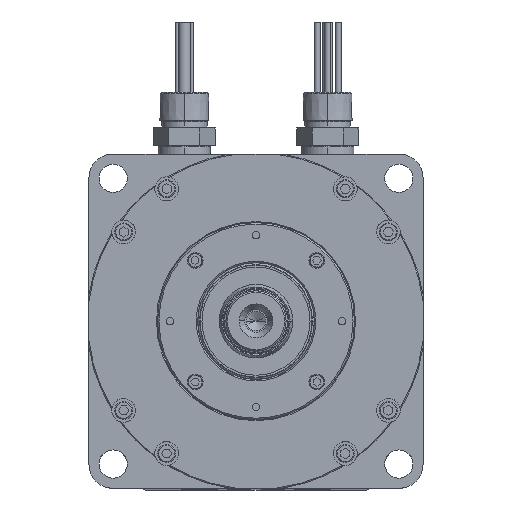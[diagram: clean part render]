
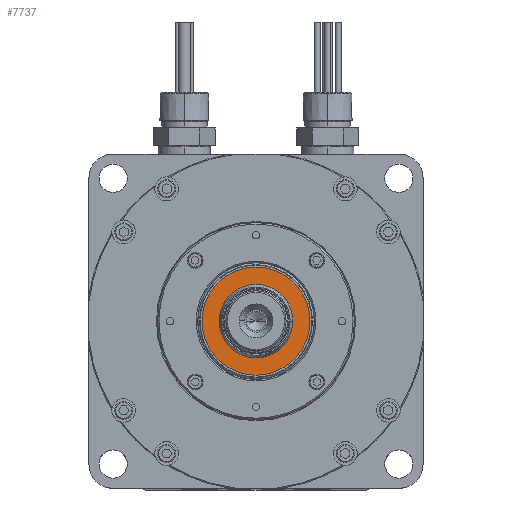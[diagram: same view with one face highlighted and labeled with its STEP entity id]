
A CAD part, top view. The second image highlights one B-rep face of the part: STEP entity #7737.
In plain terms, the highlighted planar face has unit normal (0, 0, 1).
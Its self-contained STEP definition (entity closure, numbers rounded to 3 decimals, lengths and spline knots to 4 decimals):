
#764 = CIRCLE ( 'NONE', #107404, 0.77 ) ;
#2259 = AXIS2_PLACEMENT_3D ( 'NONE', #98448, #48071, #106908 ) ;
#2685 = CARTESIAN_POINT ( 'NONE',  ( -1.1825, 0., -2.3642 ) ) ;
#4244 = ORIENTED_EDGE ( 'NONE', *, *, #101381, .F. ) ;
#5572 = CARTESIAN_POINT ( 'NONE',  ( -0.77, 0., -2.3642 ) ) ;
#7053 = DIRECTION ( 'NONE',  ( -1., 0., 0. ) ) ;
#7737 = ADVANCED_FACE ( 'NONE', ( #77172, #96961 ), #107974, .T. ) ;
#14544 = EDGE_CURVE ( 'NONE', #61845, #75412, #64677, .T. ) ;
#14904 = DIRECTION ( 'NONE',  ( -1., 0., 0. ) ) ;
#15060 = EDGE_LOOP ( 'NONE', ( #4244, #87140 ) ) ;
#19842 = DIRECTION ( 'NONE',  ( 0., 0., -1. ) ) ;
#20560 = AXIS2_PLACEMENT_3D ( 'NONE', #107953, #57559, #7053 ) ;
#23305 = DIRECTION ( 'NONE',  ( 0., 0., 1. ) ) ;
#29756 = ORIENTED_EDGE ( 'NONE', *, *, #14544, .T. ) ;
#35149 = VERTEX_POINT ( 'NONE', #2685 ) ;
#37129 = ORIENTED_EDGE ( 'NONE', *, *, #82520, .T. ) ;
#40331 = DIRECTION ( 'NONE',  ( 1., 0., 0. ) ) ;
#40685 = CARTESIAN_POINT ( 'NONE',  ( 0., 1.1825, -2.3642 ) ) ;
#43229 = CIRCLE ( 'NONE', #20560, 1.1825 ) ;
#48071 = DIRECTION ( 'NONE',  ( 0., 0., -1. ) ) ;
#50295 = CIRCLE ( 'NONE', #2259, 1.1825 ) ;
#52160 = DIRECTION ( 'NONE',  ( 0., 0., -1. ) ) ;
#57559 = DIRECTION ( 'NONE',  ( 0., 0., -1. ) ) ;
#61845 = VERTEX_POINT ( 'NONE', #5572 ) ;
#64677 = CIRCLE ( 'NONE', #91370, 0.77 ) ;
#65399 = CARTESIAN_POINT ( 'NONE',  ( 0., 0., -2.3642 ) ) ;
#66729 = CARTESIAN_POINT ( 'NONE',  ( 1.1825, 0., -2.3642 ) ) ;
#70312 = CARTESIAN_POINT ( 'NONE',  ( 0., 0., -2.3642 ) ) ;
#73152 = AXIS2_PLACEMENT_3D ( 'NONE', #40685, #23305, #40331 ) ;
#75412 = VERTEX_POINT ( 'NONE', #93798 ) ;
#77172 = FACE_BOUND ( 'NONE', #80487, .T. ) ;
#78779 = DIRECTION ( 'NONE',  ( -1., 0., 0. ) ) ;
#80487 = EDGE_LOOP ( 'NONE', ( #29756, #37129 ) ) ;
#82520 = EDGE_CURVE ( 'NONE', #75412, #61845, #764, .T. ) ;
#87140 = ORIENTED_EDGE ( 'NONE', *, *, #90054, .F. ) ;
#90054 = EDGE_CURVE ( 'NONE', #103523, #35149, #50295, .T. ) ;
#91370 = AXIS2_PLACEMENT_3D ( 'NONE', #65399, #52160, #14904 ) ;
#93798 = CARTESIAN_POINT ( 'NONE',  ( 0.77, 0., -2.3642 ) ) ;
#96961 = FACE_OUTER_BOUND ( 'NONE', #15060, .T. ) ;
#98448 = CARTESIAN_POINT ( 'NONE',  ( 0., 0., -2.3642 ) ) ;
#101381 = EDGE_CURVE ( 'NONE', #35149, #103523, #43229, .T. ) ;
#103523 = VERTEX_POINT ( 'NONE', #66729 ) ;
#106908 = DIRECTION ( 'NONE',  ( -1., 0., 0. ) ) ;
#107404 = AXIS2_PLACEMENT_3D ( 'NONE', #70312, #19842, #78779 ) ;
#107953 = CARTESIAN_POINT ( 'NONE',  ( 0., 0., -2.3642 ) ) ;
#107974 = PLANE ( 'NONE',  #73152 ) ;
